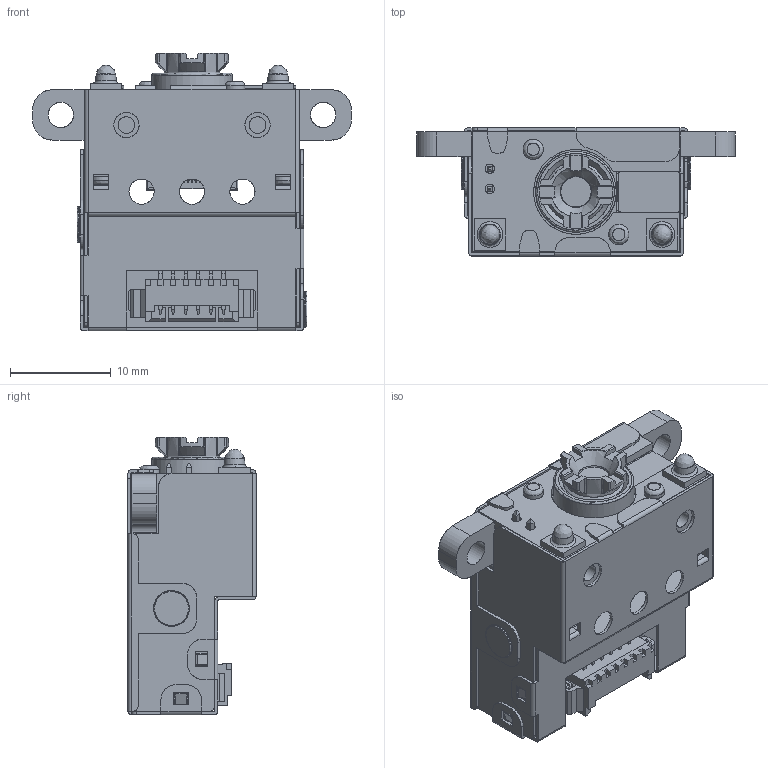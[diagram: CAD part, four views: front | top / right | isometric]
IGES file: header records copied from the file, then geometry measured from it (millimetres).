
Global section: file name: E:\lem\3DCAD_DCR50.igs; native system: NX V8.5; preprocessor: SIEMENS PLM Software NX 8.5; date: 20170303.095604; units: millimetre
Bounding box: 31.6 x 12.7 x 27.52 mm (x, y, z)
Surface area: 6801.1 mm2 (no closed solid volume)
Topology: 0 solids, 0 shells, 2874 faces, 17272 edges, 17210 vertices
Faces by surface type: bspline 2874
